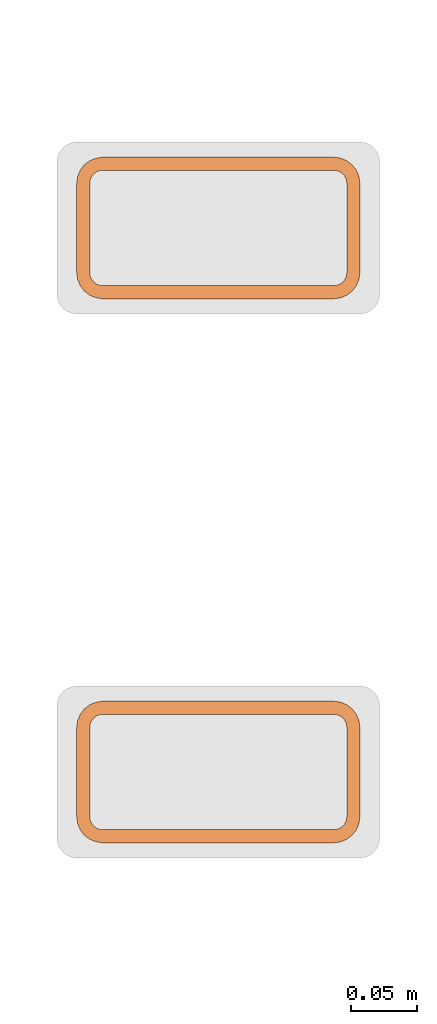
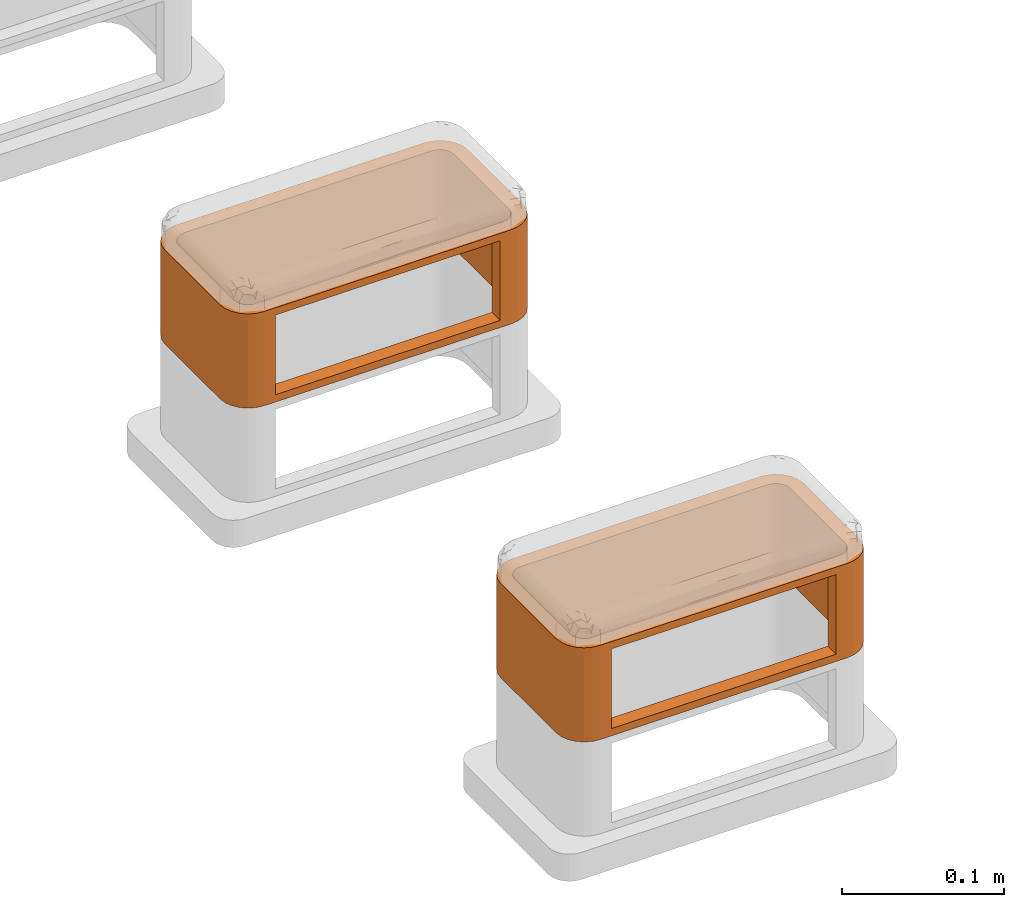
# One storey, part 52 of 87: 2 proxies.
"""IFC2X3 building model written with IfcOpenShell, lengths in millimetres."""

from ifc_helpers import new_model, entity, si_unit, converted_unit, derived_unit, direction, frame, origin, place, context, subcontext, project, spatial, faceted_brep, source, transform, mapped, material, type_object, type_shapes, element, save


model = new_model("IFC2X3")

# Units and contexts
model_context = context("Model", 3, precision=0.01, world=origin(), true_north=direction((6.12303176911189e-17, 1.0)))
body_context = subcontext(model_context, "Body", "Model", "MODEL_VIEW")
ifc_project = project(units=[si_unit("LENGTHUNIT", "METRE", prefix="MILLI"), si_unit("AREAUNIT", "SQUARE_METRE"), si_unit("VOLUMEUNIT", "CUBIC_METRE"), converted_unit("PLANEANGLEUNIT", "DEGREE", entity("IfcRatioMeasure", 0.0174532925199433), si_unit("PLANEANGLEUNIT", "RADIAN"), dimensions=[0, 0, 0, 0, 0, 0, 0]), si_unit("MASSUNIT", "GRAM", prefix="KILO"), derived_unit("MASSDENSITYUNIT", [(si_unit("MASSUNIT", "GRAM", prefix="KILO"), 1), (si_unit("LENGTHUNIT", "METRE"), -3)]), si_unit("TIMEUNIT", "SECOND"), si_unit("FREQUENCYUNIT", "HERTZ"), si_unit("THERMODYNAMICTEMPERATUREUNIT", "DEGREE_CELSIUS"), derived_unit("THERMALTRANSMITTANCEUNIT", [(si_unit("MASSUNIT", "GRAM", prefix="KILO"), 1), (si_unit("THERMODYNAMICTEMPERATUREUNIT", "KELVIN"), -1), (si_unit("TIMEUNIT", "SECOND"), -3)]), derived_unit("VOLUMETRICFLOWRATEUNIT", [(si_unit("LENGTHUNIT", "METRE"), 3), (si_unit("TIMEUNIT", "SECOND"), -1)]), si_unit("ELECTRICCURRENTUNIT", "AMPERE"), si_unit("ELECTRICVOLTAGEUNIT", "VOLT"), si_unit("POWERUNIT", "WATT"), si_unit("FORCEUNIT", "NEWTON", prefix="KILO"), si_unit("ILLUMINANCEUNIT", "LUX"), si_unit("LUMINOUSFLUXUNIT", "LUMEN"), si_unit("LUMINOUSINTENSITYUNIT", "CANDELA"), derived_unit("USERDEFINED", [(si_unit("MASSUNIT", "GRAM", prefix="KILO"), -1), (si_unit("LENGTHUNIT", "METRE"), -2), (si_unit("TIMEUNIT", "SECOND"), 3), (si_unit("LUMINOUSFLUXUNIT", "LUMEN"), 1)]), derived_unit("LINEARVELOCITYUNIT", [(si_unit("LENGTHUNIT", "METRE"), 1), (si_unit("TIMEUNIT", "SECOND"), -1)]), si_unit("PRESSUREUNIT", "PASCAL"), derived_unit("USERDEFINED", [(si_unit("LENGTHUNIT", "METRE"), -2), (si_unit("MASSUNIT", "GRAM", prefix="KILO"), 1), (si_unit("TIMEUNIT", "SECOND"), -2)])], contexts=[model_context])

# Site, building, storey
site_placement = place(None, origin())
site = spatial("IfcSite", under=ifc_project, at=site_placement, Name="Default", CompositionType="ELEMENT")
building_placement = place(site_placement, origin())
building = spatial("IfcBuilding", under=site, at=building_placement, Name="Наименование здания", CompositionType="ELEMENT")
storey_placement = place(building_placement, origin())
storey = spatial("IfcBuildingStorey", under=building, at=storey_placement, Name="Этаж 01", CompositionType="ELEMENT", Elevation=0.0)

# Proxies
ifc_material_1 = material(Name="DKC_Пластик_Серо-черный")
building_element_proxy_type_1 = type_object("IfcBuildingElementProxyType", Name="Вертикальное расширение напольной башенки BUS", PredefinedType="NOTDEFINED", material=ifc_material_1)
shared_shape_1 = source(origin(), body_context, "Body", "Brep", [
    faceted_brep([(96.660254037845, 39.0, 71.0), (97.6592582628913, 36.5881904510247, 71.0), (105.320508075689, 44.0, 71.0), (102.142135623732, 48.1421356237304, 71.0), (95.0710678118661, 41.071067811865, 71.0), (107.318516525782, 39.1763809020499, 71.0), (108.0, 34.0, 71.0), (98.0, 34.0, 71.0), (98.0, -34.0, 71.0), (108.0, -34.0, 71.0), (97.6592582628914, -36.5881904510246, 71.0), (107.318516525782, -39.17638090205, 71.0), (105.320508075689, -44.0, 71.0), (96.6602540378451, -39.0, 71.0), (102.142135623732, -48.1421356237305, 71.0), (95.0710678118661, -41.0710678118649, 71.0), (98.0, -51.3205080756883, 71.0), (93.0, -42.6602540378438, 71.0), (93.1763809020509, -53.3185165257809, 71.0), (90.5881904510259, -43.6592582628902, 71.0), (88.0, -54.0, 71.0), (88.0, -44.0, 71.0), (-88.0, -54.0, 71.0), (-88.0, -44.0, 71.0), (-90.5881904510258, -43.6592582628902, 71.0), (-93.1763809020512, -53.3185165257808, 71.0), (-93.0, -42.6602540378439, 71.0), (-98.0, -51.3205080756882, 71.0), (-95.0710678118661, -41.071067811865, 71.0), (-102.142135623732, -48.1421356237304, 71.0), (-96.660254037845, -39.0, 71.0), (-105.320508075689, -44.0, 71.0), (-97.6592582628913, -36.5881904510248, 71.0), (-107.318516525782, -39.1763809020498, 71.0), (-108.0, -34.0, 71.0), (-98.0, -34.0, 71.0), (-108.0, 34.0, 71.0), (-98.0, 34.0, 71.0), (-97.6592582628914, 36.5881904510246, 71.0), (-107.318516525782, 39.1763809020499, 71.0), (-105.320508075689, 44.0, 71.0), (-96.6602540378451, 39.0, 71.0), (-102.142135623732, 48.1421356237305, 71.0), (-95.0710678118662, 41.0710678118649, 71.0), (-98.0, 51.3205080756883, 71.0), (-93.0, 42.6602540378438, 71.0), (-93.176380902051, 53.3185165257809, 71.0), (-90.5881904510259, 43.6592582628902, 71.0), (-88.0, 54.0, 71.0), (-88.0, 44.0, 71.0), (88.0, 44.0, 71.0), (88.0, 54.0, 71.0), (90.5881904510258, 43.6592582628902, 71.0), (93.1763809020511, 53.3185165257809, 71.0), (93.0, 42.6602540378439, 71.0), (98.0, 51.3205080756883, 71.0), (-96.6602540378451, 39.0, 0.0), (-97.6592582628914, 36.5881904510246, 0.0), (-105.320508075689, 44.0, 0.0), (-102.142135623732, 48.1421356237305, 0.0), (-95.0710678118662, 41.0710678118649, 0.0), (-107.318516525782, 39.1763809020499, 0.0), (-108.0, 34.0, 0.0), (-98.0, 34.0, 0.0), (-98.0, -34.0, 0.0), (-108.0, -34.0, 0.0), (-97.6592582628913, -36.5881904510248, 0.0), (-107.318516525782, -39.1763809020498, 0.0), (-105.320508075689, -44.0, 0.0), (-96.660254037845, -39.0, 0.0), (-102.142135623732, -48.1421356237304, 0.0), (-95.0710678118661, -41.071067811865, 0.0), (-98.0, -51.3205080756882, 0.0), (-93.0, -42.6602540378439, 0.0), (-93.1763809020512, -53.3185165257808, 0.0), (-90.5881904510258, -43.6592582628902, 0.0), (-88.0, -54.0, 0.0), (-88.0, -44.0, 0.0), (88.0, -54.0, 0.0), (88.0, -44.0, 0.0), (90.5881904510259, -43.6592582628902, 0.0), (93.1763809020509, -53.3185165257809, 0.0), (93.0, -42.6602540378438, 0.0), (98.0, -51.3205080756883, 0.0), (95.0710678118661, -41.0710678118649, 0.0), (102.142135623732, -48.1421356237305, 0.0), (96.6602540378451, -39.0, 0.0), (105.320508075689, -44.0, 0.0), (97.6592582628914, -36.5881904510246, 0.0), (107.318516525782, -39.17638090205, 0.0), (108.0, -34.0, 0.0), (98.0, -34.0, 0.0), (108.0, 34.0, 0.0), (98.0, 34.0, 0.0), (97.6592582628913, 36.5881904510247, 0.0), (107.318516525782, 39.1763809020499, 0.0), (105.320508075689, 44.0, 0.0), (96.660254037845, 39.0, 0.0), (102.142135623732, 48.1421356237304, 0.0), (95.0710678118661, 41.071067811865, 0.0), (98.0, 51.3205080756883, 0.0), (93.0, 42.6602540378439, 0.0), (93.1763809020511, 53.3185165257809, 0.0), (90.5881904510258, 43.6592582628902, 0.0), (88.0, 54.0, 0.0), (88.0, 44.0, 0.0), (-88.0, 44.0, 0.0), (-88.0, 54.0, 0.0), (-90.5881904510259, 43.6592582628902, 0.0), (-93.176380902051, 53.3185165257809, 0.0), (-93.0, 42.6602540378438, 0.0), (-98.0, 51.3205080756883, 0.0), (-80.0, -54.0, 65.5000000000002), (80.0, -54.0, 65.5000000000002), (-80.0, -54.0, 5.49999999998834), (80.0, -54.0, 5.49999999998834), (80.0, -44.0, 65.5000000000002), (-80.0, -44.0, 65.5000000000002), (80.0, -44.0, 5.49999999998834), (-80.0, -44.0, 5.49999999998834)], [[[0, 1, 2]], [[3, 0, 2]], [[0, 3, 4]], [[5, 2, 1]], [[6, 5, 1]], [[1, 7, 6]], [[6, 7, 8]], [[8, 9, 6]], [[9, 8, 10]], [[9, 10, 11]], [[11, 10, 12]], [[13, 12, 10]], [[14, 12, 13]], [[15, 14, 13]], [[14, 15, 16]], [[17, 16, 15]], [[17, 18, 16]], [[19, 18, 17]], [[18, 19, 20]], [[21, 20, 19]], [[20, 21, 22]], [[23, 22, 21]], [[22, 23, 24]], [[24, 25, 22]], [[25, 24, 26]], [[25, 26, 27]], [[27, 26, 28]], [[28, 29, 27]], [[28, 30, 29]], [[29, 30, 31]], [[30, 32, 31]], [[33, 31, 32]], [[32, 34, 33]], [[32, 35, 34]], [[34, 35, 36]], [[37, 36, 35]], [[37, 38, 36]], [[39, 36, 38]], [[38, 40, 39]], [[41, 40, 38]], [[42, 40, 41]], [[42, 41, 43]], [[42, 43, 44]], [[43, 45, 44]], [[44, 45, 46]], [[45, 47, 46]], [[47, 48, 46]], [[47, 49, 48]], [[48, 49, 50]], [[50, 51, 48]], [[52, 51, 50]], [[52, 53, 51]], [[52, 54, 53]], [[55, 54, 4]], [[55, 53, 54]], [[3, 55, 4]], [[56, 57, 58]], [[59, 56, 58]], [[56, 59, 60]], [[61, 58, 57]], [[62, 61, 57]], [[57, 63, 62]], [[62, 63, 64]], [[64, 65, 62]], [[65, 64, 66]], [[65, 66, 67]], [[67, 66, 68]], [[69, 68, 66]], [[70, 68, 69]], [[71, 70, 69]], [[70, 71, 72]], [[73, 72, 71]], [[73, 74, 72]], [[75, 74, 73]], [[74, 75, 76]], [[77, 76, 75]], [[76, 77, 78]], [[79, 78, 77]], [[78, 79, 80]], [[80, 81, 78]], [[81, 80, 82]], [[81, 82, 83]], [[83, 82, 84]], [[84, 85, 83]], [[84, 86, 85]], [[85, 86, 87]], [[86, 88, 87]], [[89, 87, 88]], [[88, 90, 89]], [[88, 91, 90]], [[90, 91, 92]], [[93, 92, 91]], [[93, 94, 92]], [[95, 92, 94]], [[94, 96, 95]], [[97, 96, 94]], [[98, 96, 97]], [[98, 97, 99]], [[98, 99, 100]], [[99, 101, 100]], [[100, 101, 102]], [[101, 103, 102]], [[103, 104, 102]], [[103, 105, 104]], [[104, 105, 106]], [[106, 107, 104]], [[108, 107, 106]], [[108, 109, 107]], [[108, 110, 109]], [[111, 110, 60]], [[111, 109, 110]], [[59, 111, 60]], [[48, 51, 104, 107]], [[46, 109, 111, 44]], [[44, 111, 59, 42]], [[107, 109, 46, 48]], [[40, 58, 61, 39]], [[39, 61, 62, 36]], [[42, 59, 58, 40]], [[34, 36, 62, 65]], [[33, 67, 68, 31]], [[31, 68, 70, 29]], [[65, 67, 33, 34]], [[27, 72, 74, 25]], [[25, 74, 76, 22]], [[29, 70, 72, 27]], [[22, 112, 113]], [[112, 22, 114]], [[113, 20, 22]], [[76, 114, 22]], [[114, 76, 115]], [[78, 115, 76]], [[115, 78, 20]], [[20, 113, 115]], [[18, 81, 83, 16]], [[16, 83, 85, 14]], [[78, 81, 18, 20]], [[12, 87, 89, 11]], [[11, 89, 90, 9]], [[14, 85, 87, 12]], [[6, 9, 90, 92]], [[96, 98, 3, 2]], [[6, 92, 95, 5]], [[95, 96, 2, 5]], [[55, 100, 102, 53]], [[53, 102, 104, 51]], [[3, 98, 100, 55]], [[52, 50, 105, 103]], [[54, 52, 103, 101]], [[99, 4, 54, 101]], [[94, 93, 7, 1]], [[94, 1, 0, 97]], [[97, 0, 4, 99]], [[8, 7, 93, 91]], [[10, 8, 91, 88]], [[13, 10, 88, 86]], [[84, 15, 13, 86]], [[79, 21, 19, 80]], [[80, 19, 17, 82]], [[82, 17, 15, 84]], [[21, 116, 117]], [[116, 21, 118]], [[117, 23, 21]], [[79, 118, 21]], [[118, 79, 119]], [[77, 119, 79]], [[119, 77, 23]], [[23, 117, 119]], [[75, 73, 26, 24]], [[77, 75, 24, 23]], [[71, 28, 26, 73]], [[64, 35, 32, 66]], [[69, 66, 32, 30]], [[69, 30, 28, 71]], [[37, 35, 64, 63]], [[57, 56, 41, 38]], [[63, 57, 38, 37]], [[60, 43, 41, 56]], [[108, 106, 49, 47]], [[110, 108, 47, 45]], [[110, 45, 43, 60]], [[50, 49, 106, 105]], [[116, 113, 112, 117]], [[117, 112, 114, 119]], [[118, 119, 114, 115]], [[118, 115, 113, 116]]]),
])
type_shapes(building_element_proxy_type_1, [shared_shape_1])
proxy_1_placement = place(storey_placement, frame((26681.304557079, 210.360380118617, 91.5000000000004)))
element("IfcBuildingElementProxy", 1, at=proxy_1_placement, inside=storey, type_object=building_element_proxy_type_1, material=ifc_material_1, Name="Вертикальное расширение напольной башенки BUS:Вертикальное расширение напольной башенки BUS", ObjectType="Вертикальное расширение напольной башенки BUS", context=body_context, shape_type="MappedRepresentation", body=[
    mapped(shared_shape_1, transform((0.0, 0.0, 0.0), scale=1.0)),
])
ifc_material_2 = material(Name="DKC_Пластик_СерыйМеталлик")
building_element_proxy_type_2 = type_object("IfcBuildingElementProxyType", Name="Вертикальное расширение напольной башенки BUS", PredefinedType="NOTDEFINED", material=ifc_material_2)
shared_shape_2 = source(origin(), body_context, "Body", "Brep", [
    faceted_brep([(96.660254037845, 39.0, 71.0), (97.6592582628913, 36.5881904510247, 71.0), (105.320508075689, 44.0, 71.0), (102.142135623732, 48.1421356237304, 71.0), (95.0710678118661, 41.071067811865, 71.0), (107.318516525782, 39.1763809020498, 71.0), (108.0, 34.0, 71.0), (98.0, 34.0, 71.0), (98.0, -34.0, 71.0), (108.0, -34.0, 71.0), (97.6592582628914, -36.5881904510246, 71.0), (107.318516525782, -39.17638090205, 71.0), (105.320508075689, -44.0, 71.0), (96.6602540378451, -39.0, 71.0), (102.142135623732, -48.1421356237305, 71.0), (95.0710678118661, -41.0710678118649, 71.0), (98.0, -51.3205080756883, 71.0), (93.0, -42.6602540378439, 71.0), (93.1763809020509, -53.3185165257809, 71.0), (90.5881904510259, -43.6592582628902, 71.0), (88.0, -54.0, 71.0), (88.0, -44.0, 71.0), (-88.0, -54.0, 71.0), (-88.0, -44.0, 71.0), (-90.5881904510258, -43.6592582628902, 71.0), (-93.1763809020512, -53.3185165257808, 71.0), (-93.0, -42.6602540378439, 71.0), (-98.0, -51.3205080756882, 71.0), (-95.0710678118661, -41.071067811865, 71.0), (-102.142135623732, -48.1421356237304, 71.0), (-96.660254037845, -39.0, 71.0), (-105.320508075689, -44.0, 71.0), (-97.6592582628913, -36.5881904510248, 71.0), (-107.318516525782, -39.1763809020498, 71.0), (-108.0, -34.0, 71.0), (-98.0, -34.0, 71.0), (-108.0, 34.0, 71.0), (-98.0, 34.0, 71.0), (-97.6592582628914, 36.5881904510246, 71.0), (-107.318516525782, 39.1763809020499, 71.0), (-105.320508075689, 44.0, 71.0), (-96.6602540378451, 39.0, 71.0), (-102.142135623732, 48.1421356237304, 71.0), (-95.0710678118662, 41.0710678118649, 71.0), (-98.0, 51.3205080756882, 71.0), (-93.0, 42.6602540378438, 71.0), (-93.1763809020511, 53.3185165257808, 71.0), (-90.5881904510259, 43.6592582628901, 71.0), (-88.0, 54.0, 71.0), (-88.0, 44.0, 71.0), (88.0, 44.0, 71.0), (88.0, 54.0, 71.0), (90.5881904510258, 43.6592582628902, 71.0), (93.1763809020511, 53.3185165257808, 71.0), (93.0, 42.6602540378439, 71.0), (98.0, 51.3205080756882, 71.0), (-96.6602540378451, 39.0, 0.0), (-97.6592582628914, 36.5881904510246, 0.0), (-105.320508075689, 44.0, 0.0), (-102.142135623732, 48.1421356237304, 0.0), (-95.0710678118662, 41.0710678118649, 0.0), (-107.318516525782, 39.1763809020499, 0.0), (-108.0, 34.0, 0.0), (-98.0, 34.0, 0.0), (-98.0, -34.0, 0.0), (-108.0, -34.0, 0.0), (-97.6592582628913, -36.5881904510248, 0.0), (-107.318516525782, -39.1763809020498, 0.0), (-105.320508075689, -44.0, 0.0), (-96.660254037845, -39.0, 0.0), (-102.142135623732, -48.1421356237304, 0.0), (-95.0710678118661, -41.071067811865, 0.0), (-98.0, -51.3205080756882, 0.0), (-93.0, -42.6602540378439, 0.0), (-93.1763809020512, -53.3185165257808, 0.0), (-90.5881904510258, -43.6592582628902, 0.0), (-88.0, -54.0, 0.0), (-88.0, -44.0, 0.0), (88.0, -54.0, 0.0), (88.0, -44.0, 0.0), (90.5881904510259, -43.6592582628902, 0.0), (93.1763809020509, -53.3185165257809, 0.0), (93.0, -42.6602540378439, 0.0), (98.0, -51.3205080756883, 0.0), (95.0710678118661, -41.0710678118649, 0.0), (102.142135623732, -48.1421356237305, 0.0), (96.6602540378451, -39.0, 0.0), (105.320508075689, -44.0, 0.0), (97.6592582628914, -36.5881904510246, 0.0), (107.318516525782, -39.17638090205, 0.0), (108.0, -34.0, 0.0), (98.0, -34.0, 0.0), (108.0, 34.0, 0.0), (98.0, 34.0, 0.0), (97.6592582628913, 36.5881904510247, 0.0), (107.318516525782, 39.1763809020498, 0.0), (105.320508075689, 44.0, 0.0), (96.660254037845, 39.0, 0.0), (102.142135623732, 48.1421356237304, 0.0), (95.0710678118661, 41.071067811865, 0.0), (98.0, 51.3205080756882, 0.0), (93.0, 42.6602540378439, 0.0), (93.1763809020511, 53.3185165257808, 0.0), (90.5881904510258, 43.6592582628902, 0.0), (88.0, 54.0, 0.0), (88.0, 44.0, 0.0), (-88.0, 44.0, 0.0), (-88.0, 54.0, 0.0), (-90.5881904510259, 43.6592582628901, 0.0), (-93.1763809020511, 53.3185165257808, 0.0), (-93.0, 42.6602540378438, 0.0), (-98.0, 51.3205080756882, 0.0), (-80.0, -54.0, 65.5000000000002), (80.0, -54.0, 65.5000000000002), (-80.0, -54.0, 5.49999999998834), (80.0, -54.0, 5.49999999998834), (80.0, -44.0, 65.5000000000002), (-80.0, -44.0, 65.5000000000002), (80.0, -44.0, 5.49999999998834), (-80.0, -44.0, 5.49999999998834)], [[[0, 1, 2]], [[3, 0, 2]], [[0, 3, 4]], [[5, 2, 1]], [[6, 5, 1]], [[1, 7, 6]], [[6, 7, 8]], [[8, 9, 6]], [[9, 8, 10]], [[9, 10, 11]], [[11, 10, 12]], [[13, 12, 10]], [[14, 12, 13]], [[15, 14, 13]], [[14, 15, 16]], [[17, 16, 15]], [[17, 18, 16]], [[19, 18, 17]], [[18, 19, 20]], [[21, 20, 19]], [[20, 21, 22]], [[23, 22, 21]], [[22, 23, 24]], [[24, 25, 22]], [[25, 24, 26]], [[25, 26, 27]], [[27, 26, 28]], [[28, 29, 27]], [[28, 30, 29]], [[29, 30, 31]], [[30, 32, 31]], [[33, 31, 32]], [[32, 34, 33]], [[32, 35, 34]], [[34, 35, 36]], [[37, 36, 35]], [[37, 38, 36]], [[39, 36, 38]], [[38, 40, 39]], [[41, 40, 38]], [[42, 40, 41]], [[42, 41, 43]], [[42, 43, 44]], [[43, 45, 44]], [[44, 45, 46]], [[45, 47, 46]], [[47, 48, 46]], [[47, 49, 48]], [[48, 49, 50]], [[50, 51, 48]], [[52, 51, 50]], [[52, 53, 51]], [[52, 54, 53]], [[55, 54, 4]], [[55, 53, 54]], [[3, 55, 4]], [[56, 57, 58]], [[59, 56, 58]], [[56, 59, 60]], [[61, 58, 57]], [[62, 61, 57]], [[57, 63, 62]], [[62, 63, 64]], [[64, 65, 62]], [[65, 64, 66]], [[65, 66, 67]], [[67, 66, 68]], [[69, 68, 66]], [[70, 68, 69]], [[71, 70, 69]], [[70, 71, 72]], [[73, 72, 71]], [[73, 74, 72]], [[75, 74, 73]], [[74, 75, 76]], [[77, 76, 75]], [[76, 77, 78]], [[79, 78, 77]], [[78, 79, 80]], [[80, 81, 78]], [[81, 80, 82]], [[81, 82, 83]], [[83, 82, 84]], [[84, 85, 83]], [[84, 86, 85]], [[85, 86, 87]], [[86, 88, 87]], [[89, 87, 88]], [[88, 90, 89]], [[88, 91, 90]], [[90, 91, 92]], [[93, 92, 91]], [[93, 94, 92]], [[95, 92, 94]], [[94, 96, 95]], [[97, 96, 94]], [[98, 96, 97]], [[98, 97, 99]], [[98, 99, 100]], [[99, 101, 100]], [[100, 101, 102]], [[101, 103, 102]], [[103, 104, 102]], [[103, 105, 104]], [[104, 105, 106]], [[106, 107, 104]], [[108, 107, 106]], [[108, 109, 107]], [[108, 110, 109]], [[111, 110, 60]], [[111, 109, 110]], [[59, 111, 60]], [[48, 51, 104, 107]], [[46, 109, 111, 44]], [[44, 111, 59, 42]], [[107, 109, 46, 48]], [[40, 58, 61, 39]], [[39, 61, 62, 36]], [[42, 59, 58, 40]], [[34, 36, 62, 65]], [[33, 67, 68, 31]], [[31, 68, 70, 29]], [[65, 67, 33, 34]], [[27, 72, 74, 25]], [[25, 74, 76, 22]], [[29, 70, 72, 27]], [[22, 112, 113]], [[112, 22, 114]], [[113, 20, 22]], [[76, 114, 22]], [[114, 76, 115]], [[78, 115, 76]], [[115, 78, 20]], [[20, 113, 115]], [[18, 81, 83, 16]], [[16, 83, 85, 14]], [[78, 81, 18, 20]], [[12, 87, 89, 11]], [[11, 89, 90, 9]], [[14, 85, 87, 12]], [[6, 9, 90, 92]], [[96, 98, 3, 2]], [[6, 92, 95, 5]], [[95, 96, 2, 5]], [[55, 100, 102, 53]], [[53, 102, 104, 51]], [[3, 98, 100, 55]], [[52, 50, 105, 103]], [[54, 52, 103, 101]], [[99, 4, 54, 101]], [[94, 93, 7, 1]], [[94, 1, 0, 97]], [[97, 0, 4, 99]], [[8, 7, 93, 91]], [[88, 86, 13, 10]], [[91, 88, 10, 8]], [[15, 13, 86, 84]], [[79, 21, 19, 80]], [[82, 80, 19, 17]], [[82, 17, 15, 84]], [[21, 116, 117]], [[116, 21, 118]], [[117, 23, 21]], [[79, 118, 21]], [[118, 79, 119]], [[77, 119, 79]], [[119, 77, 23]], [[23, 117, 119]], [[75, 73, 26, 24]], [[77, 75, 24, 23]], [[71, 28, 26, 73]], [[64, 35, 32, 66]], [[69, 66, 32, 30]], [[69, 30, 28, 71]], [[37, 35, 64, 63]], [[57, 56, 41, 38]], [[63, 57, 38, 37]], [[60, 43, 41, 56]], [[108, 106, 49, 47]], [[110, 108, 47, 45]], [[110, 45, 43, 60]], [[50, 49, 106, 105]], [[116, 113, 112, 117]], [[117, 112, 114, 119]], [[118, 119, 114, 115]], [[118, 115, 113, 116]]]),
])
type_shapes(building_element_proxy_type_2, [shared_shape_2])
proxy_2_placement = place(storey_placement, frame((26681.304557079, 625.208776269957, 91.5000000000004)))
element("IfcBuildingElementProxy", 2, at=proxy_2_placement, inside=storey, type_object=building_element_proxy_type_2, material=ifc_material_2, Name="Вертикальное расширение напольной башенки BUS:Вертикальное расширение напольной башенки BUS", ObjectType="Вертикальное расширение напольной башенки BUS", context=body_context, shape_type="MappedRepresentation", body=[
    mapped(shared_shape_2, transform((0.0, 0.0, 0.0), scale=1.0)),
])

save(model, "model.ifc")
